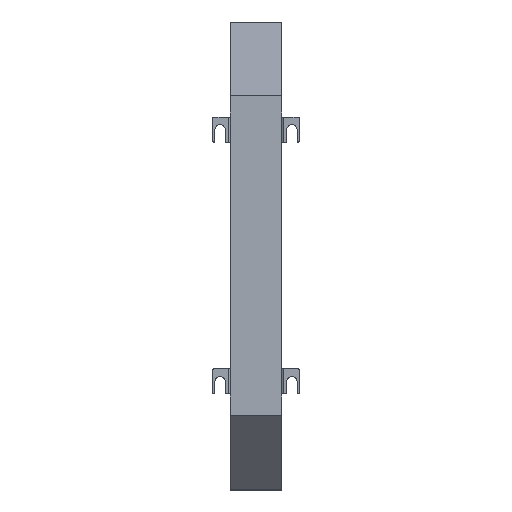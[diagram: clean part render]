
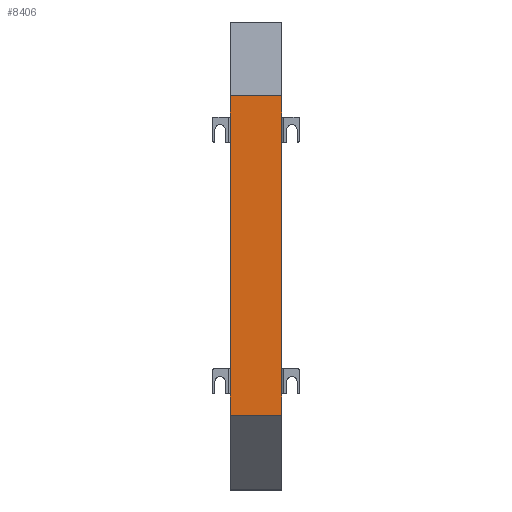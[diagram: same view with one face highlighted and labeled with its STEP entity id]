
A CAD part, top view. The second image highlights one B-rep face of the part: STEP entity #8406.
In plain terms, the highlighted planar face has unit normal (0, 0, 1) as drawn and (0, -1, 0) by its records, which use the part's own axes.
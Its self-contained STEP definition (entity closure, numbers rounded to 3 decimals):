
#12 = VERTEX_POINT ( 'NONE', #8508 ) ;
#28 = CARTESIAN_POINT ( 'NONE',  ( 0., 0., -16.5 ) ) ;
#39 = EDGE_CURVE ( 'NONE', #12892, #4498, #4988, .T. ) ;
#449 = VERTEX_POINT ( 'NONE', #10177 ) ;
#563 = LINE ( 'NONE', #14292, #2949 ) ;
#706 = DIRECTION ( 'NONE',  ( 0., 1., 0. ) ) ;
#984 = CARTESIAN_POINT ( 'NONE',  ( 0., 0., 16.5 ) ) ;
#1172 = DIRECTION ( 'NONE',  ( 1., 0., 0. ) ) ;
#1225 = CARTESIAN_POINT ( 'NONE',  ( 29.833, 0., -16.5 ) ) ;
#1830 = DIRECTION ( 'NONE',  ( 0., 0., 1. ) ) ;
#1973 = CARTESIAN_POINT ( 'NONE',  ( 190.833, 0., -16.5 ) ) ;
#2059 = EDGE_CURVE ( 'NONE', #12, #4305, #2738, .T. ) ;
#2126 = EDGE_CURVE ( 'NONE', #6248, #9551, #4857, .T. ) ;
#2213 = VERTEX_POINT ( 'NONE', #10474 ) ;
#2239 = DIRECTION ( 'NONE',  ( 1., 0., 0. ) ) ;
#2602 = DIRECTION ( 'NONE',  ( 0., 0., -1. ) ) ;
#2738 = LINE ( 'NONE', #7340, #12107 ) ;
#2783 = VECTOR ( 'NONE', #2239, 1000. ) ;
#2925 = ORIENTED_EDGE ( 'NONE', *, *, #10451, .T. ) ;
#2949 = VECTOR ( 'NONE', #8561, 1000. ) ;
#3106 = CARTESIAN_POINT ( 'NONE',  ( 0., 0., -16.5 ) ) ;
#3647 = ORIENTED_EDGE ( 'NONE', *, *, #8977, .T. ) ;
#3818 = ORIENTED_EDGE ( 'NONE', *, *, #14582, .T. ) ;
#4079 = DIRECTION ( 'NONE',  ( 1., 0., 0. ) ) ;
#4249 = VECTOR ( 'NONE', #4079, 1000. ) ;
#4305 = VERTEX_POINT ( 'NONE', #9798 ) ;
#4345 = CARTESIAN_POINT ( 'NONE',  ( 0., 0., -16.5 ) ) ;
#4384 = ORIENTED_EDGE ( 'NONE', *, *, #8974, .T. ) ;
#4392 = CARTESIAN_POINT ( 'NONE',  ( 0., 0., -16.5 ) ) ;
#4498 = VERTEX_POINT ( 'NONE', #11423 ) ;
#4857 = LINE ( 'NONE', #7261, #7531 ) ;
#4945 = EDGE_CURVE ( 'NONE', #2213, #8509, #10094, .T. ) ;
#4988 = LINE ( 'NONE', #11993, #9762 ) ;
#5037 = ORIENTED_EDGE ( 'NONE', *, *, #12382, .F. ) ;
#5148 = ORIENTED_EDGE ( 'NONE', *, *, #10991, .F. ) ;
#5187 = CARTESIAN_POINT ( 'NONE',  ( 13.833, 0., 16.5 ) ) ;
#5394 = VECTOR ( 'NONE', #14828, 1000. ) ;
#5612 = LINE ( 'NONE', #10216, #5394 ) ;
#5842 = VERTEX_POINT ( 'NONE', #1225 ) ;
#6248 = VERTEX_POINT ( 'NONE', #984 ) ;
#6868 = AXIS2_PLACEMENT_3D ( 'NONE', #8765, #706, #1830 ) ;
#7162 = VECTOR ( 'NONE', #1172, 1000. ) ;
#7261 = CARTESIAN_POINT ( 'NONE',  ( 0., 0., 16.5 ) ) ;
#7340 = CARTESIAN_POINT ( 'NONE',  ( 204.667, 0., 16.5 ) ) ;
#7400 = VECTOR ( 'NONE', #13647, 1000. ) ;
#7489 = ORIENTED_EDGE ( 'NONE', *, *, #4945, .T. ) ;
#7531 = VECTOR ( 'NONE', #11868, 1000. ) ;
#7755 = EDGE_CURVE ( 'NONE', #6248, #11871, #13046, .T. ) ;
#7966 = ORIENTED_EDGE ( 'NONE', *, *, #2126, .T. ) ;
#8199 = ORIENTED_EDGE ( 'NONE', *, *, #2059, .F. ) ;
#8406 = ADVANCED_FACE ( 'NONE', ( #8466 ), #14368, .F. ) ;
#8466 = FACE_OUTER_BOUND ( 'NONE', #12248, .T. ) ;
#8508 = CARTESIAN_POINT ( 'NONE',  ( 204.667, 0., 16.5 ) ) ;
#8509 = VERTEX_POINT ( 'NONE', #1973 ) ;
#8556 = VECTOR ( 'NONE', #10047, 1000. ) ;
#8561 = DIRECTION ( 'NONE',  ( 1., 0., 0. ) ) ;
#8594 = DIRECTION ( 'NONE',  ( 1., 0., 0. ) ) ;
#8765 = CARTESIAN_POINT ( 'NONE',  ( 0., 0., 16.5 ) ) ;
#8898 = LINE ( 'NONE', #12596, #2783 ) ;
#8974 = EDGE_CURVE ( 'NONE', #8509, #4305, #13449, .T. ) ;
#8977 = EDGE_CURVE ( 'NONE', #449, #5842, #8898, .T. ) ;
#9006 = ORIENTED_EDGE ( 'NONE', *, *, #9876, .F. ) ;
#9065 = CARTESIAN_POINT ( 'NONE',  ( 29.833, 0., 16.5 ) ) ;
#9551 = VERTEX_POINT ( 'NONE', #28 ) ;
#9552 = DIRECTION ( 'NONE',  ( 1., 0., 0. ) ) ;
#9731 = LINE ( 'NONE', #9959, #4249 ) ;
#9762 = VECTOR ( 'NONE', #8594, 1000. ) ;
#9798 = CARTESIAN_POINT ( 'NONE',  ( 204.667, 0., -16.5 ) ) ;
#9876 = EDGE_CURVE ( 'NONE', #4498, #10086, #9731, .T. ) ;
#9923 = CARTESIAN_POINT ( 'NONE',  ( 0., 0., 16.5 ) ) ;
#9959 = CARTESIAN_POINT ( 'NONE',  ( 0., 0., 16.5 ) ) ;
#10047 = DIRECTION ( 'NONE',  ( 1., 0., 0. ) ) ;
#10086 = VERTEX_POINT ( 'NONE', #14883 ) ;
#10094 = LINE ( 'NONE', #4345, #7400 ) ;
#10177 = CARTESIAN_POINT ( 'NONE',  ( 13.833, 0., -16.5 ) ) ;
#10216 = CARTESIAN_POINT ( 'NONE',  ( 0., 0., -16.5 ) ) ;
#10372 = LINE ( 'NONE', #4392, #7162 ) ;
#10451 = EDGE_CURVE ( 'NONE', #9551, #449, #10372, .T. ) ;
#10474 = CARTESIAN_POINT ( 'NONE',  ( 174.833, 0., -16.5 ) ) ;
#10991 = EDGE_CURVE ( 'NONE', #11871, #12892, #12202, .T. ) ;
#11423 = CARTESIAN_POINT ( 'NONE',  ( 174.833, 0., 16.5 ) ) ;
#11868 = DIRECTION ( 'NONE',  ( 0., 0., -1. ) ) ;
#11871 = VERTEX_POINT ( 'NONE', #5187 ) ;
#11986 = VECTOR ( 'NONE', #14536, 1000. ) ;
#11993 = CARTESIAN_POINT ( 'NONE',  ( 0., 0., 16.5 ) ) ;
#12107 = VECTOR ( 'NONE', #2602, 1000. ) ;
#12149 = VECTOR ( 'NONE', #9552, 1000. ) ;
#12202 = LINE ( 'NONE', #9923, #11986 ) ;
#12248 = EDGE_LOOP ( 'NONE', ( #2925, #3647, #3818, #7489, #4384, #8199, #5037, #9006, #14308, #5148, #13912, #7966 ) ) ;
#12382 = EDGE_CURVE ( 'NONE', #10086, #12, #563, .T. ) ;
#12596 = CARTESIAN_POINT ( 'NONE',  ( 0., 0., -16.5 ) ) ;
#12892 = VERTEX_POINT ( 'NONE', #9065 ) ;
#12893 = CARTESIAN_POINT ( 'NONE',  ( 0., 0., 16.5 ) ) ;
#13046 = LINE ( 'NONE', #12893, #12149 ) ;
#13449 = LINE ( 'NONE', #3106, #8556 ) ;
#13647 = DIRECTION ( 'NONE',  ( 1., 0., 0. ) ) ;
#13912 = ORIENTED_EDGE ( 'NONE', *, *, #7755, .F. ) ;
#14292 = CARTESIAN_POINT ( 'NONE',  ( 0., 0., 16.5 ) ) ;
#14308 = ORIENTED_EDGE ( 'NONE', *, *, #39, .F. ) ;
#14368 = PLANE ( 'NONE',  #6868 ) ;
#14536 = DIRECTION ( 'NONE',  ( 1., 0., 0. ) ) ;
#14582 = EDGE_CURVE ( 'NONE', #5842, #2213, #5612, .T. ) ;
#14828 = DIRECTION ( 'NONE',  ( 1., 0., 0. ) ) ;
#14883 = CARTESIAN_POINT ( 'NONE',  ( 190.833, 0., 16.5 ) ) ;
